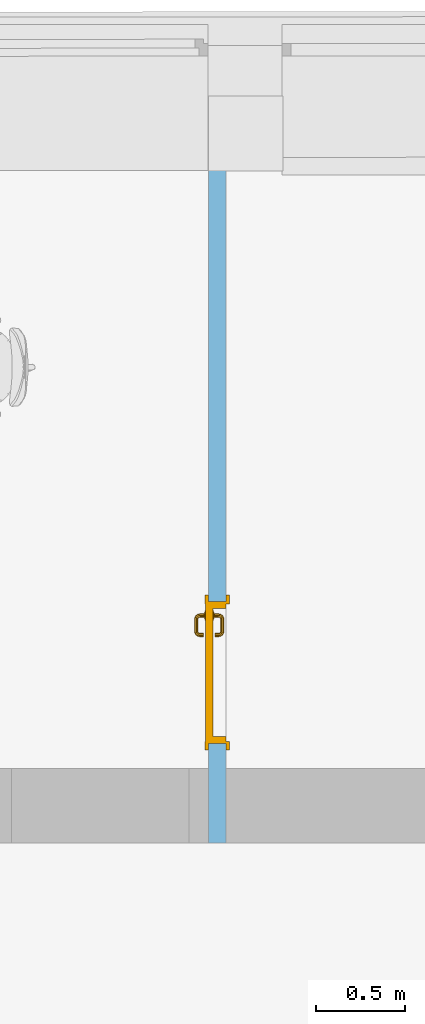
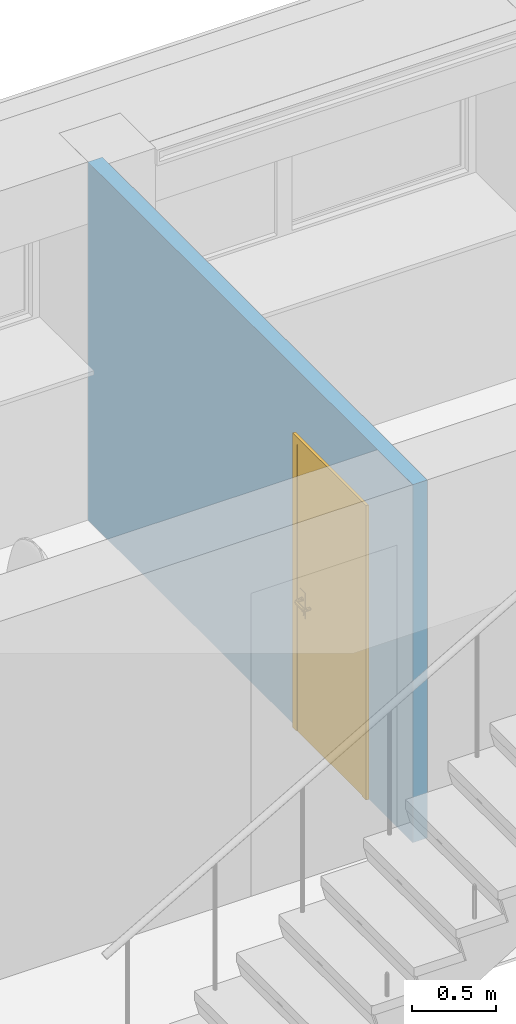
# One storey, part 58 of 127: 1 door, 1 opening, plus 1 element that does not belong to this part.
"""IFC2X3 building model written with IfcOpenShell, lengths in millimetres."""

from ifc_helpers import new_model, entity, si_unit, converted_unit, derived_unit, money_unit, direction, frame, origin_with_axes, origin_2d_with_axis, place, context, subcontext, project, spatial, polyline, rectangle, outline, extrude, open_shell, faceted_brep, surface_model, material, layer, layer_set, layer_usage, type_object, element, fill, save


model = new_model("IFC2X3")

# Units and contexts
model_context = context("Model", 3, precision=1e-05, world=origin_with_axes(), true_north=direction((0.0, 1.0)))
body_context = subcontext(model_context, "Body", "Model", "MODEL_VIEW")
ifc_project = project(units=[si_unit("LENGTHUNIT", "METRE", prefix="MILLI"), si_unit("AREAUNIT", "SQUARE_METRE"), si_unit("VOLUMEUNIT", "CUBIC_METRE"), converted_unit("PLANEANGLEUNIT", "DEGREE", entity("IfcPlaneAngleMeasure", 0.0174532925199), si_unit("PLANEANGLEUNIT", "RADIAN"), dimensions=[0, 0, 0, 0, 0, 0, 0]), si_unit("SOLIDANGLEUNIT", "STERADIAN"), money_unit("EUR"), converted_unit("TIMEUNIT", "Year", entity("IfcTimeMeasure", 31556926.0), si_unit("TIMEUNIT", "SECOND"), dimensions=[0, 0, 1, 0, 0, 0, 0]), si_unit("MASSUNIT", "GRAM", prefix="KILO"), si_unit("THERMODYNAMICTEMPERATUREUNIT", "DEGREE_CELSIUS"), si_unit("LUMINOUSINTENSITYUNIT", "LUMEN"), si_unit("ENERGYUNIT", "JOULE", prefix="MEGA"), derived_unit("THERMALCONDUCTANCEUNIT", [(si_unit("POWERUNIT", "WATT"), 1), (si_unit("LENGTHUNIT", "METRE"), -1), (si_unit("THERMODYNAMICTEMPERATUREUNIT", "KELVIN"), -1)]), derived_unit("SPECIFICHEATCAPACITYUNIT", [(si_unit("ENERGYUNIT", "JOULE"), 1), (si_unit("MASSUNIT", "GRAM", prefix="KILO"), -1), (si_unit("THERMODYNAMICTEMPERATUREUNIT", "KELVIN"), -1)]), derived_unit("MASSDENSITYUNIT", [(si_unit("MASSUNIT", "GRAM", prefix="KILO"), 1), (si_unit("VOLUMEUNIT", "CUBIC_METRE"), -1)])], contexts=[model_context])

# Site, building, storey
site_placement = place(None, origin_with_axes())
site = spatial("IfcSite", under=ifc_project, at=site_placement, Name="Site", CompositionType="ELEMENT")
building_placement = place(site_placement, origin_with_axes())
building = spatial("IfcBuilding", under=site, at=building_placement, Name="Building", CompositionType="ELEMENT")
storey_placement = place(building_placement, origin_with_axes())
storey = spatial("IfcBuildingStorey", under=building, at=storey_placement, Name="1 KORRUS", CompositionType="ELEMENT", Elevation=0.0)

# Wall, opening, door
ifc_material = material(Name="Kivi -Ol.Olev Konstruktsioon")
ifc_layer = layer(ifc_material, 100.0, ventilated="UNKNOWN")
ifc_layer_set = layer_set([ifc_layer], Name="ol.olev ss 100")
ifc_layer_usage = layer_usage(ifc_layer_set, "AXIS2", "POSITIVE", -100.0)
wall_type = type_object("IfcWallType", Name="SW - 022", PredefinedType="NOTDEFINED")
wall_placement = place(storey_placement, frame((12740.9132401, 67298.912857, 0.0), z_axis=(0.0, 0.0, 1.0), x_axis=(0.0, 1.0, 0.0)))
wall = element("IfcWallStandardCase", 1, at=wall_placement, inside=storey, type_object=wall_type, material=ifc_layer_usage, Name="ol.olev ss 100", context=body_context, shape_type="SweptSolid", body=[
    extrude(outline(polyline([(0.0, -100.0), (3864.59152832, -100.0), (3864.46740401, 0.0), (0.0, 0.0), (0.0, -100.0)])), origin_with_axes(), (0.0, 0.0, 1.0), 2600.0),
])
opening_placement = place(wall_placement, frame((959.487650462, 0.0, 0.0), z_axis=(0.0, 0.0, 1.0), x_axis=(1.0, 0.0, 0.0)))
opening = element("IfcOpeningElement", 2, at=opening_placement, cuts=wall, Name="Siseuks * Door 22", context=body_context, shape_type="SweptSolid", body=[
    extrude(rectangle(XDim=799.999999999, YDim=2100.0, at=origin_2d_with_axis()), frame((0.0, 100.0, 1050.0), z_axis=(0.0, 1.0, 0.0), x_axis=(-1.0, 0.0, 0.0)), (0.0, 0.0, -1.0), 300.0),
    extrude(rectangle(XDim=874.0, YDim=2137.0, at=origin_2d_with_axis()), frame((0.0, 0.0, 1068.5), z_axis=(0.0, 1.0, 0.0), x_axis=(-1.0, 0.0, 0.0)), (0.0, 0.0, 1.0), 100.0),
    extrude(rectangle(XDim=874.0, YDim=2137.0, at=origin_2d_with_axis()), frame((0.0, -100.0, 1068.5), z_axis=(0.0, -1.0, 0.0), x_axis=(-1.0, 0.0, 0.0)), (0.0, 0.0, 1.0), 100.0),
])
door_style = type_object("IfcDoorStyle", Name="SU-A103   800×2\xa0100", ConstructionType="NOTDEFINED", OperationType="SINGLE_SWING_LEFT", ParameterTakesPrecedence=False, Sizeable=False)
door_placement = place(opening_placement, frame((-400.0, 0.0, 0.0), z_axis=(0.0, 0.0, 1.0), x_axis=(1.0, 0.0, 0.0)))
door = element("IfcDoor", 3, at=door_placement, inside=storey, type_object=door_style, Name="Siseuks * Door 22", OverallHeight=2100.0, OverallWidth=800.0, context=body_context, shape_type="SurfaceModel", body=[
    faceted_brep([(837.0, 19.0, 0.0), (837.0, 0.0, 0.0), (786.999999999, 0.0, 0.0), (786.999999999, 19.0, 0.0), (837.0, 19.0, 2137.0), (837.0, 0.0, 2137.0), (786.999999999, 0.0, 2087.0), (786.999999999, 19.0, 2087.0)], [[[0, 1, 2, 3]], [[4, 5, 1, 0]], [[1, 5, 6, 2]], [[3, 2, 6, 7]], [[0, 3, 7, 4]], [[7, 6, 5, 4]]]),
    faceted_brep([(-37.0000000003, 19.0, 2137.0), (-37.0000000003, 0.0, 2137.0), (12.9999999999, 0.0, 2087.0), (12.9999999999, 19.0, 2087.0), (-37.0000000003, 19.0, 0.0), (-37.0000000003, 0.0, 0.0), (12.9999999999, 0.0, 0.0), (12.9999999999, 19.0, 0.0)], [[[0, 1, 2, 3]], [[4, 5, 1, 0]], [[1, 5, 6, 2]], [[3, 2, 6, 7]], [[0, 3, 7, 4]], [[7, 6, 5, 4]]]),
    faceted_brep([(837.0, 19.0, 2137.0), (837.0, 0.0, 2137.0), (786.999999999, 0.0, 2087.0), (786.999999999, 19.0, 2087.0), (-37.0000000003, 19.0, 2137.0), (-37.0000000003, 0.0, 2137.0), (12.9999999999, 0.0, 2087.0), (12.9999999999, 19.0, 2087.0)], [[[0, 1, 2, 3]], [[4, 5, 1, 0]], [[1, 5, 6, 2]], [[3, 2, 6, 7]], [[0, 3, 7, 4]], [[7, 6, 5, 4]]]),
    faceted_brep([(837.0, -119.0, 0.0), (786.999999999, -119.0, 0.0), (786.999999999, -100.0, 0.0), (837.0, -100.0, 0.0), (837.0, -119.0, 2137.0), (786.999999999, -119.0, 2087.0), (786.999999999, -100.0, 2087.0), (837.0, -100.0, 2137.0)], [[[0, 1, 2, 3]], [[0, 4, 5, 1]], [[1, 5, 6, 2]], [[3, 2, 6, 7]], [[4, 0, 3, 7]], [[5, 4, 7, 6]]]),
    faceted_brep([(-37.0000000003, -119.0, 2137.0), (12.9999999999, -119.0, 2087.0), (12.9999999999, -100.0, 2087.0), (-37.0000000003, -100.0, 2137.0), (-37.0000000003, -119.0, 0.0), (12.9999999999, -119.0, 0.0), (12.9999999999, -100.0, 0.0), (-37.0000000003, -100.0, 0.0)], [[[0, 1, 2, 3]], [[0, 4, 5, 1]], [[1, 5, 6, 2]], [[3, 2, 6, 7]], [[4, 0, 3, 7]], [[5, 4, 7, 6]]]),
    faceted_brep([(837.0, -119.0, 2137.0), (786.999999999, -119.0, 2087.0), (786.999999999, -100.0, 2087.0), (837.0, -100.0, 2137.0), (-37.0000000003, -119.0, 2137.0), (12.9999999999, -119.0, 2087.0), (12.9999999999, -100.0, 2087.0), (-37.0000000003, -100.0, 2137.0)], [[[0, 1, 2, 3]], [[0, 4, 5, 1]], [[1, 5, 6, 2]], [[3, 2, 6, 7]], [[4, 0, 3, 7]], [[5, 4, 7, 6]]]),
    faceted_brep([(759.999999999, -25.0, 0.0), (759.999999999, -100.0, 0.0), (759.999999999, -100.0, 2060.0), (759.999999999, -25.0, 2060.0), (772.0, -25.0, 0.0), (772.0, 15.0, 0.0), (799.999999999, 15.0, 0.0), (799.999999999, -100.0, 0.0), (799.999999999, -100.0, 2060.0), (772.0, -25.0, 2060.0), (799.999999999, 15.0, 2060.0), (772.0, 15.0, 2060.0)], [[[0, 1, 2, 3]], [[4, 5, 6, 7, 1, 0]], [[1, 7, 8, 2]], [[9, 3, 2, 8, 10, 11]], [[9, 4, 0, 3]], [[11, 5, 4, 9]], [[11, 10, 6, 5]], [[6, 10, 8, 7]]]),
    faceted_brep([(27.9999999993, -25.0, 2060.0), (27.9999999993, 15.0, 2060.0), (0.0, 15.0, 2060.0), (0.0, -100.0, 2060.0), (40.0, -100.0, 2060.0), (40.0, -25.0, 2060.0), (27.9999999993, -25.0, 0.0), (27.9999999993, 15.0, 0.0), (0.0, 15.0, 0.0), (0.0, -100.0, 0.0), (40.0, -100.0, 0.0), (40.0, -25.0, 0.0)], [[[0, 1, 2, 3, 4, 5]], [[0, 6, 7, 1]], [[7, 8, 2, 1]], [[2, 8, 9, 3]], [[3, 9, 10, 4]], [[5, 4, 10, 11]], [[5, 11, 6, 0]], [[6, 11, 10, 9, 8, 7]]]),
    faceted_brep([(772.0, 15.0, 2072.0), (27.9999999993, 15.0, 2072.0), (27.9999999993, 15.0, 2060.0), (0.0, 15.0, 2060.0), (0.0, 15.0, 2100.0), (799.999999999, 15.0, 2100.0), (799.999999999, 15.0, 2060.0), (772.0, 15.0, 2060.0), (772.0, -25.0, 2072.0), (27.9999999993, -25.0, 2072.0), (27.9999999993, -25.0, 2060.0), (40.0, -25.0, 2060.0), (40.0, -100.0, 2060.0), (0.0, -100.0, 2060.0), (0.0, -100.0, 2100.0), (799.999999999, -100.0, 2100.0), (799.999999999, -100.0, 2060.0), (772.0, -25.0, 2060.0), (759.999999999, -100.0, 2060.0), (759.999999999, -25.0, 2060.0)], [[[0, 1, 2, 3, 4, 5, 6, 7]], [[0, 8, 9, 1]], [[1, 9, 10, 2]], [[10, 11, 12, 13, 3, 2]], [[4, 3, 13, 14]], [[5, 4, 14, 15]], [[6, 5, 15, 16]], [[17, 7, 6, 16, 18, 19]], [[7, 17, 8, 0]], [[10, 9, 8, 17, 19, 11]], [[19, 18, 12, 11]], [[12, 18, 16, 15, 14, 13]]]),
    faceted_brep([(750.499999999, -25.0, 1060.0), (693.499999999, -25.0, 1060.0), (693.499999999, -28.0, 1060.0), (750.499999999, -28.0, 1060.0), (750.499999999, -25.0, 870.0), (693.499999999, -25.0, 870.0), (693.499999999, -28.0, 870.0), (750.499999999, -28.0, 870.0)], [[[0, 1, 2, 3]], [[0, 4, 5, 1]], [[1, 5, 6, 2]], [[3, 2, 6, 7]], [[4, 0, 3, 7]], [[5, 4, 7, 6]]]),
    surface_model("IfcShellBasedSurfaceModel", [(712.0, -38.0, 1000.0), (714.928932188, -38.0, 992.928932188), (714.928932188, -57.303560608, 992.928932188), (712.0, -57.0150859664, 1000.0), (722.0, -38.0, 990.0), (722.0, -58.0, 990.0), (713.816790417, -62.8946748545, 992.928932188), (711.057796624, -61.751862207, 1000.0), (714.928932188, -38.0, 1007.07106781), (714.928932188, -57.303560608, 1007.07106781), (729.071067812, -38.0, 992.928932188), (729.071067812, -58.6964393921, 992.928932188), (720.47759065, -65.6536686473, 990.0), (711.044179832, -67.0441798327, 992.928932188), (708.932537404, -64.9325374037, 1000.0), (713.816790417, -62.8946748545, 1007.07106781), (722.0, -38.0, 1010.0), (722.0, -58.0, 1010.0), (732.0, -38.0, 1000.0), (732.0, -58.9849140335, 1000.0), (727.138390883, -68.4126624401, 992.928932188), (716.142135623, -72.1421356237, 990.0), (706.894674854, -69.8167904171, 992.928932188), (705.751862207, -67.0577966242, 1000.0), (711.044179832, -67.0441798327, 1007.07106781), (720.47759065, -65.6536686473, 1010.0), (729.071067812, -38.0, 1007.07106781), (729.071067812, -58.6964393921, 1007.07106781), (729.897384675, -69.5554750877, 1000.0), (721.240091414, -77.2400914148, 992.928932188), (709.653668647, -76.4775906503, 990.0), (701.303560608, -70.9289321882, 992.928932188), (701.015085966, -68.0, 1000.0), (706.894674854, -69.8167904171, 1007.07106781), (716.142135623, -72.1421356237, 1010.0), (727.138390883, -68.4126624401, 1007.07106781), (723.351733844, -79.3517338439, 1000.0), (712.412662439, -83.1383908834, 992.928932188), (701.999999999, -78.0, 990.0), (632.696439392, -70.9289321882, 992.928932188), (632.984914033, -68.0, 1000.0), (701.303560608, -70.9289321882, 1007.07106781), (709.653668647, -76.4775906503, 1010.0), (721.240091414, -77.2400914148, 1007.07106781), (713.555475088, -85.8973846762, 1000.0), (702.696439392, -85.0710678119, 992.928932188), (632.0, -78.0, 990.0), (627.105325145, -69.8167904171, 992.928932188), (628.248137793, -67.0577966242, 1000.0), (632.696439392, -70.9289321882, 1007.07106781), (701.999999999, -78.0, 1010.0), (712.412662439, -83.1383908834, 1007.07106781), (702.984914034, -88.0, 1000.0), (631.303560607, -85.0710678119, 992.928932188), (624.346331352, -76.4775906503, 990.0), (622.955820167, -67.0441798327, 992.928932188), (625.067462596, -64.9325374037, 1000.0), (627.105325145, -69.8167904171, 1007.07106781), (632.0, -78.0, 1010.0), (702.696439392, -85.0710678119, 1007.07106781), (631.015085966, -88.0, 1000.0), (621.58733756, -83.1383908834, 992.928932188), (617.857864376, -72.1421356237, 990.0), (620.183209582, -62.8946748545, 992.928932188), (622.942203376, -61.751862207, 1000.0), (622.955820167, -67.0441798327, 1007.07106781), (624.346331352, -76.4775906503, 1010.0), (631.303560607, -85.0710678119, 1007.07106781), (620.444524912, -85.8973846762, 1000.0), (612.759908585, -77.2400914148, 992.928932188), (613.52240935, -65.6536686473, 990.0), (619.071067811, -57.303560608, 992.928932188), (621.999999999, -57.0150859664, 1000.0), (620.183209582, -62.8946748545, 1007.07106781), (617.857864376, -72.1421356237, 1010.0), (621.58733756, -83.1383908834, 1007.07106781), (610.648266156, -79.3517338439, 1000.0), (606.861609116, -68.4126624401, 992.928932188), (612.0, -58.0, 990.0), (619.071067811, -38.0, 992.928932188), (621.999999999, -38.0, 1000.0), (619.071067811, -57.303560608, 1007.07106781), (613.52240935, -65.6536686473, 1010.0), (612.759908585, -77.2400914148, 1007.07106781), (604.102615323, -69.5554750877, 1000.0), (604.928932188, -58.6964393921, 992.928932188), (612.0, -38.0, 990.0), (604.928932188, -38.0, 992.928932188), (602.0, -38.0, 1000.0), (604.928932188, -38.0, 1007.07106781), (612.0, -38.0, 1010.0), (619.071067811, -38.0, 1007.07106781), (612.0, -58.0, 1010.0), (606.861609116, -68.4126624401, 1007.07106781), (602.0, -58.9849140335, 1000.0), (604.928932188, -58.6964393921, 1007.07106781)], [open_shell([[[0, 1, 2, 3]], [[1, 4, 5, 2]], [[3, 2, 6, 7]], [[8, 0, 3, 9]], [[4, 10, 11, 5]], [[2, 5, 12, 6]], [[7, 6, 13, 14]], [[9, 3, 7, 15]], [[16, 8, 9, 17]], [[10, 18, 19, 11]], [[5, 11, 20, 12]], [[6, 12, 21, 13]], [[14, 13, 22, 23]], [[15, 7, 14, 24]], [[17, 9, 15, 25]], [[26, 16, 17, 27]], [[18, 26, 27, 19]], [[11, 19, 28, 20]], [[12, 20, 29, 21]], [[13, 21, 30, 22]], [[23, 22, 31, 32]], [[24, 14, 23, 33]], [[25, 15, 24, 34]], [[27, 17, 25, 35]], [[19, 27, 35, 28]], [[20, 28, 36, 29]], [[21, 29, 37, 30]], [[22, 30, 38, 31]], [[32, 31, 39, 40]], [[33, 23, 32, 41]], [[34, 24, 33, 42]], [[35, 25, 34, 43]], [[28, 35, 43, 36]], [[29, 36, 44, 37]], [[30, 37, 45, 38]], [[31, 38, 46, 39]], [[40, 39, 47, 48]], [[41, 32, 40, 49]], [[42, 33, 41, 50]], [[43, 34, 42, 51]], [[36, 43, 51, 44]], [[37, 44, 52, 45]], [[38, 45, 53, 46]], [[39, 46, 54, 47]], [[48, 47, 55, 56]], [[49, 40, 48, 57]], [[50, 41, 49, 58]], [[51, 42, 50, 59]], [[44, 51, 59, 52]], [[45, 52, 60, 53]], [[46, 53, 61, 54]], [[47, 54, 62, 55]], [[56, 55, 63, 64]], [[57, 48, 56, 65]], [[58, 49, 57, 66]], [[59, 50, 58, 67]], [[52, 59, 67, 60]], [[53, 60, 68, 61]], [[54, 61, 69, 62]], [[55, 62, 70, 63]], [[64, 63, 71, 72]], [[65, 56, 64, 73]], [[66, 57, 65, 74]], [[67, 58, 66, 75]], [[60, 67, 75, 68]], [[61, 68, 76, 69]], [[62, 69, 77, 70]], [[63, 70, 78, 71]], [[72, 71, 79, 80]], [[73, 64, 72, 81]], [[74, 65, 73, 82]], [[75, 66, 74, 83]], [[68, 75, 83, 76]], [[69, 76, 84, 77]], [[70, 77, 85, 78]], [[71, 78, 86, 79]], [[80, 79, 86, 87, 88, 89, 90, 91]], [[81, 72, 80, 91]], [[82, 73, 81, 92]], [[83, 74, 82, 93]], [[76, 83, 93, 84]], [[77, 84, 94, 85]], [[78, 85, 87, 86]], [[85, 94, 88, 87]], [[94, 95, 89, 88]], [[95, 92, 90, 89]], [[92, 81, 91, 90]], [[93, 82, 92, 95]], [[84, 93, 95, 94]]])]),
    faceted_brep([(711.607695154, -38.0, 994.0), (710.0, -38.0, 1000.0), (709.0, -28.0, 1000.0), (710.741669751, -28.0, 993.5), (715.999999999, -38.0, 989.607695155), (722.0, -38.0, 988.0), (728.0, -38.0, 989.607695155), (732.392304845, -38.0, 994.0), (733.999999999, -38.0, 1000.0), (732.392304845, -38.0, 1006.0), (728.0, -38.0, 1010.39230485), (722.0, -38.0, 1012.0), (715.999999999, -38.0, 1010.39230485), (711.607695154, -38.0, 1006.0), (710.741669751, -28.0, 1006.5), (715.499999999, -28.0, 1011.25833025), (722.0, -28.0, 1013.0), (728.499999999, -28.0, 1011.25833025), (733.258330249, -28.0, 1006.5), (735.0, -28.0, 1000.0), (733.258330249, -28.0, 993.5), (728.499999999, -28.0, 988.741669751), (722.0, -28.0, 987.0), (715.499999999, -28.0, 988.741669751)], [[[0, 1, 2, 3]], [[1, 0, 4, 5, 6, 7, 8, 9, 10, 11, 12, 13]], [[1, 13, 14, 2]], [[2, 14, 15, 16, 17, 18, 19, 20, 21, 22, 23, 3]], [[4, 0, 3, 23]], [[5, 4, 23, 22]], [[6, 5, 22, 21]], [[7, 6, 21, 20]], [[8, 7, 20, 19]], [[9, 8, 19, 18]], [[10, 9, 18, 17]], [[11, 10, 17, 16]], [[12, 11, 16, 15]], [[13, 12, 15, 14]]]),
    faceted_brep([(704.679491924, -32.0, 895.0), (701.999999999, -32.0, 905.0), (700.0, -28.0, 905.0), (702.947441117, -28.0, 894.0), (712.0, -32.0, 887.679491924), (722.0, -32.0, 885.0), (732.0, -32.0, 887.679491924), (739.320508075, -32.0, 895.0), (741.999999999, -32.0, 905.0), (739.320508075, -32.0, 915.0), (732.0, -32.0, 922.320508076), (722.0, -32.0, 925.0), (712.0, -32.0, 922.320508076), (704.679491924, -32.0, 915.0), (702.947441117, -28.0, 916.0), (710.999999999, -28.0, 924.052558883), (722.0, -28.0, 927.0), (732.999999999, -28.0, 924.052558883), (741.052558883, -28.0, 916.0), (744.0, -28.0, 905.0), (741.052558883, -28.0, 894.0), (732.999999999, -28.0, 885.947441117), (722.0, -28.0, 883.0), (710.999999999, -28.0, 885.947441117)], [[[0, 1, 2, 3]], [[1, 0, 4, 5, 6, 7, 8, 9, 10, 11, 12, 13]], [[1, 13, 14, 2]], [[2, 14, 15, 16, 17, 18, 19, 20, 21, 22, 23, 3]], [[4, 0, 3, 23]], [[5, 4, 23, 22]], [[6, 5, 22, 21]], [[7, 6, 21, 20]], [[8, 7, 20, 19]], [[9, 8, 19, 18]], [[10, 9, 18, 17]], [[11, 10, 17, 16]], [[12, 11, 16, 15]], [[13, 12, 15, 14]]]),
    faceted_brep([(717.050252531, -34.0, 909.050252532), (714.999999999, -34.0, 914.0), (714.0, -32.0, 914.0), (716.34314575, -32.0, 908.343145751), (722.0, -34.0, 907.0), (726.949747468, -34.0, 909.050252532), (728.999999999, -34.0, 914.0), (726.949747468, -34.0, 918.949747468), (722.0, -34.0, 921.0), (717.050252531, -34.0, 918.949747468), (716.34314575, -32.0, 919.656854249), (722.0, -32.0, 922.0), (727.656854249, -32.0, 919.656854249), (730.0, -32.0, 914.0), (727.656854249, -32.0, 908.343145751), (722.0, -32.0, 906.0)], [[[0, 1, 2, 3]], [[1, 0, 4, 5, 6, 7, 8, 9]], [[1, 9, 10, 2]], [[2, 10, 11, 12, 13, 14, 15, 3]], [[4, 0, 3, 15]], [[5, 4, 15, 14]], [[6, 5, 14, 13]], [[7, 6, 13, 12]], [[8, 7, 12, 11]], [[9, 8, 11, 10]]]),
    faceted_brep([(750.499999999, 15.0, 1060.0), (750.499999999, 18.0, 1060.0), (693.499999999, 18.0, 1060.0), (693.499999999, 15.0, 1060.0), (750.499999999, 15.0, 870.0), (750.499999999, 18.0, 870.0), (693.499999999, 18.0, 870.0), (693.499999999, 15.0, 870.0)], [[[0, 1, 2, 3]], [[4, 5, 1, 0]], [[1, 5, 6, 2]], [[3, 2, 6, 7]], [[0, 3, 7, 4]], [[7, 6, 5, 4]]]),
    surface_model("IfcShellBasedSurfaceModel", [(712.0, 28.0, 1000.0), (712.0, 47.0150859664, 1000.0), (714.928932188, 47.3035606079, 992.928932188), (714.928932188, 28.0, 992.928932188), (714.928932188, 28.0, 1007.07106781), (714.928932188, 47.3035606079, 1007.07106781), (711.057796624, 51.751862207, 1000.0), (713.816790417, 52.8946748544, 992.928932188), (722.0, 48.0, 990.0), (722.0, 28.0, 990.0), (722.0, 28.0, 1010.0), (722.0, 48.0, 1010.0), (713.816790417, 52.8946748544, 1007.07106781), (708.932537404, 54.9325374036, 1000.0), (711.044179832, 57.0441798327, 992.928932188), (720.47759065, 55.6536686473, 990.0), (729.071067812, 48.696439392, 992.928932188), (729.071067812, 28.0, 992.928932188), (729.071067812, 28.0, 1007.07106781), (729.071067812, 48.696439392, 1007.07106781), (720.47759065, 55.6536686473, 1010.0), (711.044179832, 57.0441798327, 1007.07106781), (705.751862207, 57.0577966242, 1000.0), (706.894674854, 59.816790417, 992.928932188), (716.142135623, 62.1421356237, 990.0), (727.138390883, 58.4126624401, 992.928932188), (732.0, 48.9849140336, 1000.0), (732.0, 28.0, 1000.0), (727.138390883, 58.4126624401, 1007.07106781), (716.142135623, 62.1421356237, 1010.0), (706.894674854, 59.816790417, 1007.07106781), (701.015085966, 58.0, 1000.0), (701.303560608, 60.9289321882, 992.928932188), (709.653668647, 66.4775906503, 990.0), (721.240091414, 67.2400914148, 992.928932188), (729.897384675, 59.5554750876, 1000.0), (721.240091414, 67.2400914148, 1007.07106781), (709.653668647, 66.4775906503, 1010.0), (701.303560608, 60.9289321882, 1007.07106781), (632.984914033, 58.0, 1000.0), (632.696439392, 60.9289321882, 992.928932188), (701.999999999, 68.0, 990.0), (712.412662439, 73.1383908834, 992.928932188), (723.351733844, 69.3517338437, 1000.0), (712.412662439, 73.1383908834, 1007.07106781), (701.999999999, 68.0, 1010.0), (632.696439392, 60.9289321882, 1007.07106781), (628.248137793, 57.0577966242, 1000.0), (627.105325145, 59.816790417, 992.928932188), (632.0, 68.0, 990.0), (702.696439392, 75.0710678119, 992.928932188), (713.555475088, 75.8973846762, 1000.0), (702.696439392, 75.0710678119, 1007.07106781), (632.0, 68.0, 1010.0), (627.105325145, 59.816790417, 1007.07106781), (625.067462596, 54.9325374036, 1000.0), (622.955820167, 57.0441798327, 992.928932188), (624.346331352, 66.4775906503, 990.0), (631.303560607, 75.0710678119, 992.928932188), (702.984914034, 78.0, 1000.0), (631.303560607, 75.0710678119, 1007.07106781), (624.346331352, 66.4775906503, 1010.0), (622.955820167, 57.0441798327, 1007.07106781), (622.942203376, 51.751862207, 1000.0), (620.183209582, 52.8946748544, 992.928932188), (617.857864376, 62.1421356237, 990.0), (621.58733756, 73.1383908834, 992.928932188), (631.015085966, 78.0, 1000.0), (621.58733756, 73.1383908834, 1007.07106781), (617.857864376, 62.1421356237, 1010.0), (620.183209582, 52.8946748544, 1007.07106781), (621.999999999, 47.0150859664, 1000.0), (619.071067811, 47.3035606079, 992.928932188), (613.52240935, 55.6536686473, 990.0), (612.759908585, 67.2400914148, 992.928932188), (620.444524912, 75.8973846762, 1000.0), (612.759908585, 67.2400914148, 1007.07106781), (613.52240935, 55.6536686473, 1010.0), (619.071067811, 47.3035606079, 1007.07106781), (621.999999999, 28.0, 1000.0), (619.071067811, 28.0, 992.928932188), (612.0, 48.0, 990.0), (606.861609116, 58.4126624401, 992.928932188), (610.648266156, 69.3517338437, 1000.0), (606.861609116, 58.4126624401, 1007.07106781), (612.0, 48.0, 1010.0), (619.071067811, 28.0, 1007.07106781), (612.0, 28.0, 1010.0), (604.928932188, 28.0, 1007.07106781), (602.0, 28.0, 1000.0), (604.928932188, 28.0, 992.928932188), (612.0, 28.0, 990.0), (604.928932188, 48.696439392, 992.928932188), (604.102615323, 59.5554750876, 1000.0), (604.928932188, 48.696439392, 1007.07106781), (602.0, 48.9849140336, 1000.0)], [open_shell([[[0, 1, 2, 3]], [[4, 5, 1, 0]], [[1, 6, 7, 2]], [[3, 2, 8, 9]], [[10, 11, 5, 4]], [[5, 12, 6, 1]], [[6, 13, 14, 7]], [[2, 7, 15, 8]], [[9, 8, 16, 17]], [[18, 19, 11, 10]], [[11, 20, 12, 5]], [[12, 21, 13, 6]], [[13, 22, 23, 14]], [[7, 14, 24, 15]], [[8, 15, 25, 16]], [[17, 16, 26, 27]], [[27, 26, 19, 18]], [[19, 28, 20, 11]], [[20, 29, 21, 12]], [[21, 30, 22, 13]], [[22, 31, 32, 23]], [[14, 23, 33, 24]], [[15, 24, 34, 25]], [[16, 25, 35, 26]], [[26, 35, 28, 19]], [[28, 36, 29, 20]], [[29, 37, 30, 21]], [[30, 38, 31, 22]], [[31, 39, 40, 32]], [[23, 32, 41, 33]], [[24, 33, 42, 34]], [[25, 34, 43, 35]], [[35, 43, 36, 28]], [[36, 44, 37, 29]], [[37, 45, 38, 30]], [[38, 46, 39, 31]], [[39, 47, 48, 40]], [[32, 40, 49, 41]], [[33, 41, 50, 42]], [[34, 42, 51, 43]], [[43, 51, 44, 36]], [[44, 52, 45, 37]], [[45, 53, 46, 38]], [[46, 54, 47, 39]], [[47, 55, 56, 48]], [[40, 48, 57, 49]], [[41, 49, 58, 50]], [[42, 50, 59, 51]], [[51, 59, 52, 44]], [[52, 60, 53, 45]], [[53, 61, 54, 46]], [[54, 62, 55, 47]], [[55, 63, 64, 56]], [[48, 56, 65, 57]], [[49, 57, 66, 58]], [[50, 58, 67, 59]], [[59, 67, 60, 52]], [[60, 68, 61, 53]], [[61, 69, 62, 54]], [[62, 70, 63, 55]], [[63, 71, 72, 64]], [[56, 64, 73, 65]], [[57, 65, 74, 66]], [[58, 66, 75, 67]], [[67, 75, 68, 60]], [[68, 76, 69, 61]], [[69, 77, 70, 62]], [[70, 78, 71, 63]], [[71, 79, 80, 72]], [[64, 72, 81, 73]], [[65, 73, 82, 74]], [[66, 74, 83, 75]], [[75, 83, 76, 68]], [[76, 84, 77, 69]], [[77, 85, 78, 70]], [[78, 86, 79, 71]], [[79, 86, 87, 88, 89, 90, 91, 80]], [[72, 80, 91, 81]], [[73, 81, 92, 82]], [[74, 82, 93, 83]], [[83, 93, 84, 76]], [[84, 94, 85, 77]], [[85, 87, 86, 78]], [[94, 88, 87, 85]], [[95, 89, 88, 94]], [[92, 90, 89, 95]], [[81, 91, 90, 92]], [[82, 92, 95, 93]], [[93, 95, 94, 84]]])]),
    faceted_brep([(711.607695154, 28.0, 994.0), (710.741669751, 18.0, 993.5), (709.0, 18.0, 1000.0), (710.0, 28.0, 1000.0), (715.999999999, 28.0, 989.607695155), (715.499999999, 18.0, 988.741669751), (722.0, 18.0, 987.0), (728.499999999, 18.0, 988.741669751), (733.258330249, 18.0, 993.5), (735.0, 18.0, 1000.0), (733.258330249, 18.0, 1006.5), (728.499999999, 18.0, 1011.25833025), (722.0, 18.0, 1013.0), (715.499999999, 18.0, 1011.25833025), (710.741669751, 18.0, 1006.5), (711.607695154, 28.0, 1006.0), (715.999999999, 28.0, 1010.39230485), (722.0, 28.0, 1012.0), (728.0, 28.0, 1010.39230485), (732.392304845, 28.0, 1006.0), (733.999999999, 28.0, 1000.0), (732.392304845, 28.0, 994.0), (728.0, 28.0, 989.607695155), (722.0, 28.0, 988.0)], [[[0, 1, 2, 3]], [[4, 5, 1, 0]], [[2, 1, 5, 6, 7, 8, 9, 10, 11, 12, 13, 14]], [[3, 2, 14, 15]], [[3, 15, 16, 17, 18, 19, 20, 21, 22, 23, 4, 0]], [[23, 6, 5, 4]], [[22, 7, 6, 23]], [[21, 8, 7, 22]], [[20, 9, 8, 21]], [[19, 10, 9, 20]], [[18, 11, 10, 19]], [[17, 12, 11, 18]], [[16, 13, 12, 17]], [[15, 14, 13, 16]]]),
    faceted_brep([(704.679491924, 21.9999999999, 895.0), (702.947441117, 18.0, 894.0), (700.0, 18.0, 905.0), (701.999999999, 21.9999999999, 905.0), (712.0, 21.9999999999, 887.679491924), (710.999999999, 18.0, 885.947441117), (722.0, 18.0, 883.0), (732.999999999, 18.0, 885.947441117), (741.052558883, 18.0, 894.0), (744.0, 18.0, 905.0), (741.052558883, 18.0, 916.0), (732.999999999, 18.0, 924.052558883), (722.0, 18.0, 927.0), (710.999999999, 18.0, 924.052558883), (702.947441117, 18.0, 916.0), (704.679491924, 21.9999999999, 915.0), (712.0, 21.9999999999, 922.320508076), (722.0, 21.9999999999, 925.0), (732.0, 21.9999999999, 922.320508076), (739.320508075, 21.9999999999, 915.0), (741.999999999, 21.9999999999, 905.0), (739.320508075, 21.9999999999, 895.0), (732.0, 21.9999999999, 887.679491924), (722.0, 21.9999999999, 885.0)], [[[0, 1, 2, 3]], [[4, 5, 1, 0]], [[2, 1, 5, 6, 7, 8, 9, 10, 11, 12, 13, 14]], [[3, 2, 14, 15]], [[3, 15, 16, 17, 18, 19, 20, 21, 22, 23, 4, 0]], [[23, 6, 5, 4]], [[22, 7, 6, 23]], [[21, 8, 7, 22]], [[20, 9, 8, 21]], [[19, 10, 9, 20]], [[18, 11, 10, 19]], [[17, 12, 11, 18]], [[16, 13, 12, 17]], [[15, 14, 13, 16]]]),
    faceted_brep([(717.050252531, 24.0, 909.050252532), (716.34314575, 21.9999999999, 908.343145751), (714.0, 21.9999999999, 914.0), (714.999999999, 24.0, 914.0), (722.0, 24.0, 907.0), (722.0, 21.9999999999, 906.0), (727.656854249, 21.9999999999, 908.343145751), (730.0, 21.9999999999, 914.0), (727.656854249, 21.9999999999, 919.656854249), (722.0, 21.9999999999, 922.0), (716.34314575, 21.9999999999, 919.656854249), (717.050252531, 24.0, 918.949747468), (722.0, 24.0, 921.0), (726.949747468, 24.0, 918.949747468), (728.999999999, 24.0, 914.0), (726.949747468, 24.0, 909.050252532)], [[[0, 1, 2, 3]], [[4, 5, 1, 0]], [[2, 1, 5, 6, 7, 8, 9, 10]], [[3, 2, 10, 11]], [[3, 11, 12, 13, 14, 15, 4, 0]], [[15, 6, 5, 4]], [[14, 7, 6, 15]], [[13, 8, 7, 14]], [[12, 9, 8, 13]], [[11, 10, 9, 12]]]),
    faceted_brep([(27.9999999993, 15.0, 0.0), (772.0, 15.0, 0.0), (772.0, -25.0, 0.0), (27.9999999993, -25.0, 0.0), (27.9999999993, 15.0, 2072.0), (772.0, 15.0, 2072.0), (772.0, -25.0, 2072.0), (27.9999999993, -25.0, 2072.0)], [[[0, 1, 2, 3]], [[0, 4, 5, 1]], [[1, 5, 6, 2]], [[3, 2, 6, 7]], [[4, 0, 3, 7]], [[5, 4, 7, 6]]]),
])
fill(opening, door)

save(model, "model.ifc")
